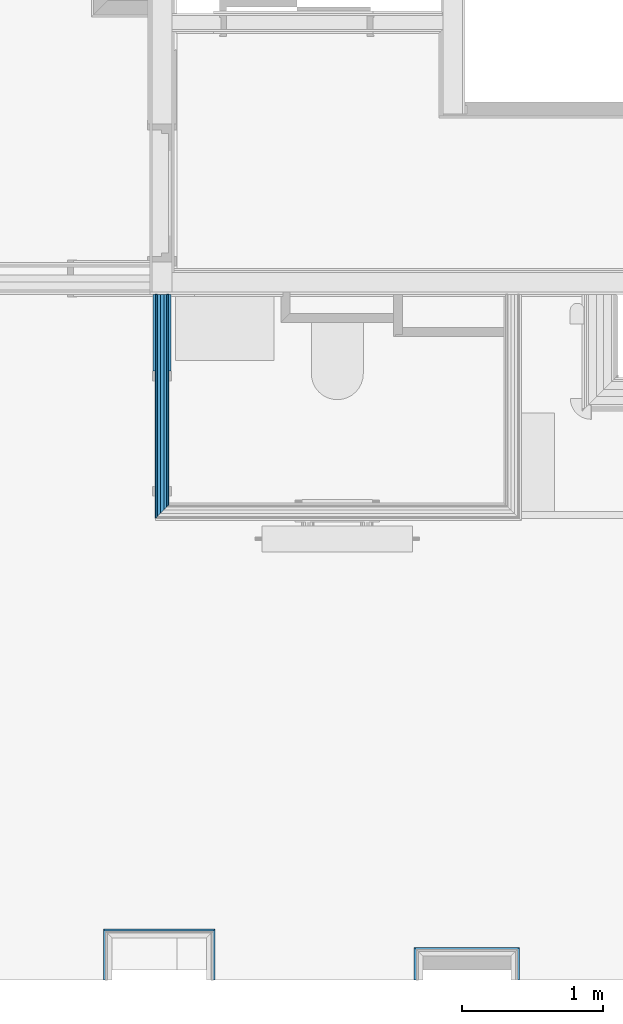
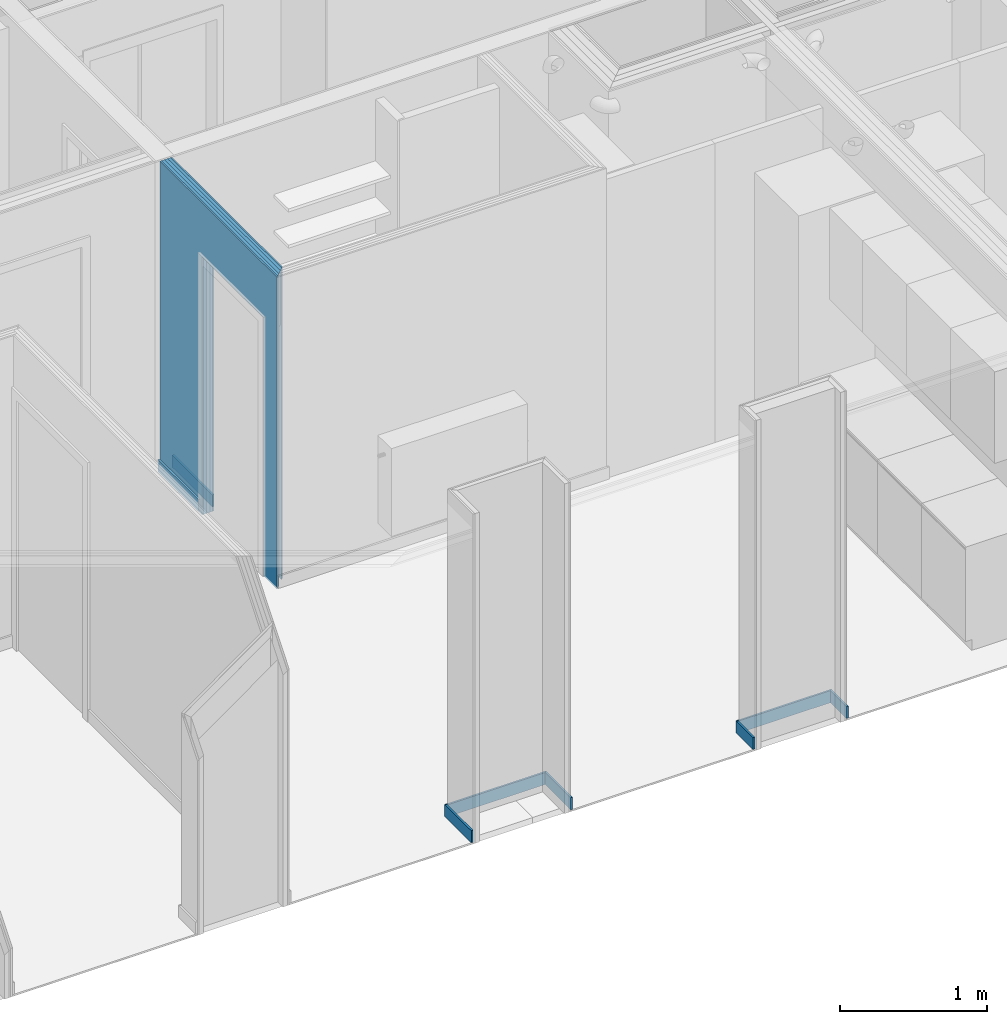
# One storey, part 28 of 85: 13 building element parts, 2 openings, 7 elements without a shape of their own.
"""IFC2X3 building model written with IfcOpenShell, lengths in metres."""

from ifc_helpers import new_model, entity, si_unit, converted_unit, derived_unit, money_unit, direction, frame, frame_2d, origin_with_axes, place, context, subcontext, project, spatial, polyline, rectangle, outline, extrude, material, type_object, element, aggregate, save


model = new_model("IFC2X3")

# Units and contexts
model_context = context("Model", 3, precision=1e-05, world=origin_with_axes(), true_north=direction((0.0, 1.0)))
body_context = subcontext(model_context, "Body", "Model", "MODEL_VIEW", scale=1.0)
ifc_project = project(units=[si_unit("LENGTHUNIT", "METRE"), si_unit("AREAUNIT", "SQUARE_METRE"), si_unit("VOLUMEUNIT", "CUBIC_METRE"), si_unit("ABSORBEDDOSEUNIT", "GRAY"), si_unit("AMOUNTOFSUBSTANCEUNIT", "MOLE"), si_unit("DOSEEQUIVALENTUNIT", "SIEVERT"), si_unit("ELECTRICCAPACITANCEUNIT", "FARAD"), si_unit("ELECTRICCHARGEUNIT", "COULOMB"), si_unit("ELECTRICCONDUCTANCEUNIT", "SIEMENS"), si_unit("ELECTRICCURRENTUNIT", "AMPERE"), si_unit("ELECTRICRESISTANCEUNIT", "OHM"), si_unit("ELECTRICVOLTAGEUNIT", "VOLT"), si_unit("ENERGYUNIT", "JOULE"), si_unit("FORCEUNIT", "NEWTON"), si_unit("FREQUENCYUNIT", "HERTZ"), si_unit("ILLUMINANCEUNIT", "LUX"), si_unit("INDUCTANCEUNIT", "HENRY"), si_unit("LUMINOUSFLUXUNIT", "LUMEN"), si_unit("LUMINOUSINTENSITYUNIT", "CANDELA"), si_unit("MAGNETICFLUXDENSITYUNIT", "TESLA"), si_unit("MAGNETICFLUXUNIT", "WEBER"), si_unit("MASSUNIT", "GRAM"), converted_unit("PLANEANGLEUNIT", "degree", entity("IfcReal", 0.0174532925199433), si_unit("PLANEANGLEUNIT", "RADIAN"), dimensions=[0, 0, 0, 0, 0, 0, 0]), si_unit("POWERUNIT", "WATT"), si_unit("PRESSUREUNIT", "PASCAL"), si_unit("RADIOACTIVITYUNIT", "BECQUEREL"), si_unit("SOLIDANGLEUNIT", "STERADIAN"), si_unit("THERMODYNAMICTEMPERATUREUNIT", "KELVIN"), si_unit("TIMEUNIT", "SECOND"), derived_unit("ACCELERATIONUNIT", [(si_unit("LENGTHUNIT", "METRE"), 1), (si_unit("TIMEUNIT", "SECOND"), -2)]), derived_unit("ANGULARVELOCITYUNIT", [(converted_unit("PLANEANGLEUNIT", "degree", entity("IfcReal", 0.0174532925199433), si_unit("PLANEANGLEUNIT", "RADIAN"), dimensions=[0, 0, 0, 0, 0, 0, 0]), 1), (si_unit("TIMEUNIT", "SECOND"), -1)]), derived_unit("CURVATUREUNIT", [(converted_unit("PLANEANGLEUNIT", "degree", entity("IfcReal", 0.0174532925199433), si_unit("PLANEANGLEUNIT", "RADIAN"), dimensions=[0, 0, 0, 0, 0, 0, 0]), 1), (si_unit("LENGTHUNIT", "METRE"), -1)]), derived_unit("DYNAMICVISCOSITYUNIT", [(si_unit("PRESSUREUNIT", "PASCAL"), 1), (si_unit("TIMEUNIT", "SECOND"), 1)]), derived_unit("HEATFLUXDENSITYUNIT", [(si_unit("POWERUNIT", "WATT"), 1), (si_unit("LENGTHUNIT", "METRE"), -2)]), derived_unit("HEATINGVALUEUNIT", [(si_unit("ENERGYUNIT", "JOULE"), 1), (si_unit("MASSUNIT", "GRAM"), -1)]), derived_unit("INTEGERCOUNTRATEUNIT", [(si_unit("TIMEUNIT", "SECOND"), -1)]), derived_unit("IONCONCENTRATIONUNIT", [(si_unit("MASSUNIT", "GRAM"), 1), (si_unit("VOLUMEUNIT", "CUBIC_METRE"), -1)]), derived_unit("ISOTHERMALMOISTURECAPACITYUNIT", [(si_unit("VOLUMEUNIT", "CUBIC_METRE"), 1), (si_unit("MASSUNIT", "GRAM"), -1)]), derived_unit("KINEMATICVISCOSITYUNIT", [(si_unit("AREAUNIT", "SQUARE_METRE"), 1), (si_unit("TIMEUNIT", "SECOND"), -1)]), derived_unit("LINEARFORCEUNIT", [(si_unit("FORCEUNIT", "NEWTON"), 1), (si_unit("LENGTHUNIT", "METRE"), -1)]), derived_unit("LINEARMOMENTUNIT", [(si_unit("FORCEUNIT", "NEWTON"), 1), (si_unit("LENGTHUNIT", "METRE"), -1)]), derived_unit("LINEARSTIFFNESSUNIT", [(si_unit("FORCEUNIT", "NEWTON"), 1), (si_unit("LENGTHUNIT", "METRE"), -1)]), derived_unit("LINEARVELOCITYUNIT", [(si_unit("LENGTHUNIT", "METRE"), 1), (si_unit("TIMEUNIT", "SECOND"), -1)]), derived_unit("LUMINOUSINTENSITYDISTRIBUTIONUNIT", [(si_unit("LUMINOUSINTENSITYUNIT", "CANDELA"), 1), (si_unit("LUMINOUSFLUXUNIT", "LUMEN"), -1)]), derived_unit("MASSDENSITYUNIT", [(si_unit("MASSUNIT", "GRAM"), 1), (si_unit("VOLUMEUNIT", "CUBIC_METRE"), -1)]), derived_unit("MASSFLOWRATEUNIT", [(si_unit("MASSUNIT", "GRAM"), 1), (si_unit("TIMEUNIT", "SECOND"), -1)]), derived_unit("MASSPERLENGTHUNIT", [(si_unit("MASSUNIT", "GRAM"), 1), (si_unit("LENGTHUNIT", "METRE"), -1)]), derived_unit("MODULUSOFELASTICITYUNIT", [(si_unit("FORCEUNIT", "NEWTON"), 1), (si_unit("AREAUNIT", "SQUARE_METRE"), -1)]), derived_unit("MODULUSOFLINEARSUBGRADEREACTIONUNIT", [(si_unit("FORCEUNIT", "NEWTON"), 1), (si_unit("LENGTHUNIT", "METRE"), -2)]), derived_unit("MODULUSOFROTATIONALSUBGRADEREACTIONUNIT", [(si_unit("FORCEUNIT", "NEWTON"), 1), (si_unit("LENGTHUNIT", "METRE"), 1)]), derived_unit("MODULUSOFSUBGRADEREACTIONUNIT", [(si_unit("FORCEUNIT", "NEWTON"), 1), (si_unit("VOLUMEUNIT", "CUBIC_METRE"), -1)]), derived_unit("MOISTUREDIFFUSIVITYUNIT", [(si_unit("VOLUMEUNIT", "CUBIC_METRE"), 1), (si_unit("TIMEUNIT", "SECOND"), -1)]), derived_unit("MOLECULARWEIGHTUNIT", [(si_unit("MASSUNIT", "GRAM"), 1), (si_unit("AMOUNTOFSUBSTANCEUNIT", "MOLE"), -1)]), derived_unit("PLANARFORCEUNIT", [(si_unit("FORCEUNIT", "NEWTON"), 1), (si_unit("LENGTHUNIT", "METRE"), -2)]), derived_unit("ROTATIONALFREQUENCYUNIT", [(si_unit("TIMEUNIT", "SECOND"), -1)]), derived_unit("ROTATIONALMASSUNIT", [(si_unit("MASSUNIT", "GRAM"), 1), (si_unit("LENGTHUNIT", "METRE"), 2)]), derived_unit("ROTATIONALSTIFFNESSUNIT", [(si_unit("FORCEUNIT", "NEWTON"), 1), (si_unit("LENGTHUNIT", "METRE"), 1), (converted_unit("PLANEANGLEUNIT", "degree", entity("IfcReal", 0.0174532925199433), si_unit("PLANEANGLEUNIT", "RADIAN"), dimensions=[0, 0, 0, 0, 0, 0, 0]), -1)]), derived_unit("SECTIONAREAINTEGRALUNIT", [(si_unit("LENGTHUNIT", "METRE"), 5)]), derived_unit("SECTIONMODULUSUNIT", [(si_unit("LENGTHUNIT", "METRE"), 3)]), derived_unit("SHEARMODULUSUNIT", [(si_unit("FORCEUNIT", "NEWTON"), 1), (si_unit("AREAUNIT", "SQUARE_METRE"), -1)]), derived_unit("SOUNDPOWERUNIT", [(si_unit("ENERGYUNIT", "JOULE"), 1), (si_unit("TIMEUNIT", "SECOND"), -1)]), derived_unit("SPECIFICHEATCAPACITYUNIT", [(si_unit("FORCEUNIT", "NEWTON"), 1), (si_unit("MASSUNIT", "GRAM"), -1), (si_unit("THERMODYNAMICTEMPERATUREUNIT", "KELVIN"), -1)]), derived_unit("TEMPERATUREGRADIENTUNIT", [(si_unit("THERMODYNAMICTEMPERATUREUNIT", "KELVIN"), 1), (si_unit("LENGTHUNIT", "METRE"), -1)]), derived_unit("THERMALADMITTANCEUNIT", [(si_unit("POWERUNIT", "WATT"), 1), (si_unit("AREAUNIT", "SQUARE_METRE"), -1), (si_unit("THERMODYNAMICTEMPERATUREUNIT", "KELVIN"), -1)]), derived_unit("THERMALCONDUCTANCEUNIT", [(si_unit("POWERUNIT", "WATT"), 1), (si_unit("LENGTHUNIT", "METRE"), -1), (si_unit("THERMODYNAMICTEMPERATUREUNIT", "KELVIN"), -1)]), derived_unit("THERMALEXPANSIONCOEFFICIENTUNIT", [(si_unit("THERMODYNAMICTEMPERATUREUNIT", "KELVIN"), -1)]), derived_unit("THERMALRESISTANCEUNIT", [(si_unit("AREAUNIT", "SQUARE_METRE"), 1), (si_unit("POWERUNIT", "WATT"), -1)]), derived_unit("THERMALTRANSMITTANCEUNIT", [(si_unit("POWERUNIT", "WATT"), 1), (si_unit("AREAUNIT", "SQUARE_METRE"), -1), (si_unit("THERMODYNAMICTEMPERATUREUNIT", "KELVIN"), -1)]), derived_unit("TORQUEUNIT", [(si_unit("FORCEUNIT", "NEWTON"), 1), (si_unit("LENGTHUNIT", "METRE"), 1)]), derived_unit("VAPORPERMEABILITYUNIT", [(si_unit("MASSUNIT", "GRAM"), 1), (si_unit("TIMEUNIT", "SECOND"), -1)]), derived_unit("VOLUMETRICFLOWRATEUNIT", [(si_unit("VOLUMEUNIT", "CUBIC_METRE"), 1), (si_unit("TIMEUNIT", "SECOND"), -1)]), derived_unit("WARPINGCONSTANTUNIT", [(si_unit("LENGTHUNIT", "METRE"), 6)]), derived_unit("WARPINGMOMENTUNIT", [(si_unit("FORCEUNIT", "NEWTON"), 1), (si_unit("LENGTHUNIT", "METRE"), 2)]), money_unit("GBP")], contexts=[model_context])

# Site, building, storey
site_placement = place(None, origin_with_axes())
site = spatial("IfcSite", under=ifc_project, at=site_placement, Name="Site", CompositionType="ELEMENT")
building_placement = place(site_placement, origin_with_axes())
building = spatial("IfcBuilding", under=site, at=building_placement, Name="Building01", CompositionType="ELEMENT")
storey_placement = place(building_placement, frame((0.0, 0.0, 12.13), z_axis=(0.0, 0.0, 1.0), x_axis=(1.0, 0.0, 0.0)))
storey = spatial("IfcBuildingStorey", under=building, at=storey_placement, Name="3F", CompositionType="ELEMENT", Elevation=12.13)

# Wall, building element part
wall_type_1 = type_object("IfcWallType", Name="SHE_A-Walls_Type06d_ExternalWallInsulation_48mm", PredefinedType="NOTDEFINED")
wall_1_placement = place(storey_placement, frame((8.79, 0.1, 0.0), z_axis=(0.0, 0.0, 1.0), x_axis=(0.0, 1.0, 0.0)))
wall_1 = element("IfcWall", 1, at=wall_1_placement, inside=storey, type_object=wall_type_1, Name="6D", ObjectType="SHE_A-Walls_Type06d_ExternalWallInsulation_48mm")
ifc_material_1 = material(Name="A_BSUK_Walls_Timber")
building_element_part_1_placement = place(wall_1_placement, origin_with_axes())
building_element_part_1 = element("IfcBuildingElementPart", 2, at=building_element_part_1_placement, material=ifc_material_1, Name="3", context=body_context, shape_type="SweptSolid", body=[
    extrude(outline(polyline([(0.363, 0.063), (0.0, 0.063), (0.0, 0.048), (0.348, 0.048), (0.363, 0.063)])), frame((0.0, 0.0, 0.015), z_axis=(0.0, 0.0, 1.0), x_axis=(1.0, 0.0, 0.0)), (0.0, 0.0, 1.0), 0.1),
])
aggregate(wall_1, [building_element_part_1])

wall_2_placement = place(storey_placement, frame((8.79, 0.4, 0.0), z_axis=(0.0, 0.0, 1.0), x_axis=(1.0, 0.0, 0.0)))
wall_2 = element("IfcWall", 3, at=wall_2_placement, inside=storey, type_object=wall_type_1, Name="6D", ObjectType="SHE_A-Walls_Type06d_ExternalWallInsulation_48mm")
building_element_part_2_placement = place(wall_2_placement, origin_with_axes())
building_element_part_2 = element("IfcBuildingElementPart", 4, at=building_element_part_2_placement, material=ifc_material_1, Name="3", context=body_context, shape_type="SweptSolid", body=[
    extrude(outline(polyline([(0.733, 0.063), (-0.063, 0.063), (-0.048, 0.048), (0.718, 0.048), (0.733, 0.063)])), frame((0.0, 0.0, 0.015), z_axis=(0.0, 0.0, 1.0), x_axis=(1.0, 0.0, 0.0)), (0.0, 0.0, 1.0), 0.1),
])
aggregate(wall_2, [building_element_part_2])

wall_3_placement = place(storey_placement, frame((9.46, 0.4, 0.0), z_axis=(0.0, 0.0, 1.0), x_axis=(0.0, -1.0, 0.0)))
wall_3 = element("IfcWall", 5, at=wall_3_placement, inside=storey, type_object=wall_type_1, Name="6D", ObjectType="SHE_A-Walls_Type06d_ExternalWallInsulation_48mm")
building_element_part_3_placement = place(wall_3_placement, origin_with_axes())
building_element_part_3 = element("IfcBuildingElementPart", 6, at=building_element_part_3_placement, material=ifc_material_1, Name="3", context=body_context, shape_type="SweptSolid", body=[
    extrude(outline(polyline([(-0.063, 0.063), (-0.048, 0.048), (0.3, 0.048), (0.3, 0.063), (-0.063, 0.063)])), frame((0.0, 0.0, 0.015), z_axis=(0.0, 0.0, 1.0), x_axis=(1.0, 0.0, 0.0)), (0.0, 0.0, 1.0), 0.1),
])
aggregate(wall_3, [building_element_part_3])

wall_4_placement = place(storey_placement, frame((11.003, 0.1, 0.0), z_axis=(0.0, 0.0, 1.0), x_axis=(0.0, 1.0, 0.0)))
wall_4 = element("IfcWall", 7, at=wall_4_placement, inside=storey, type_object=wall_type_1, Name="6D", ObjectType="SHE_A-Walls_Type06d_ExternalWallInsulation_48mm")
building_element_part_4_placement = place(wall_4_placement, origin_with_axes())
building_element_part_4 = element("IfcBuildingElementPart", 8, at=building_element_part_4_placement, material=ifc_material_1, Name="3", context=body_context, shape_type="SweptSolid", body=[
    extrude(outline(polyline([(0.233, 0.063), (0.0, 0.063), (0.0, 0.048), (0.218, 0.048), (0.233, 0.063)])), frame((0.0, 0.0, 0.015), z_axis=(0.0, 0.0, 1.0), x_axis=(1.0, 0.0, 0.0)), (0.0, 0.0, 1.0), 0.1),
])
aggregate(wall_4, [building_element_part_4])

wall_5_placement = place(storey_placement, frame((11.003, 0.27, 0.0), z_axis=(0.0, 0.0, 1.0), x_axis=(1.0, 0.0, 0.0)))
wall_5 = element("IfcWall", 9, at=wall_5_placement, inside=storey, type_object=wall_type_1, Name="6D", ObjectType="SHE_A-Walls_Type06d_ExternalWallInsulation_48mm")
building_element_part_5_placement = place(wall_5_placement, origin_with_axes())
building_element_part_5 = element("IfcBuildingElementPart", 10, at=building_element_part_5_placement, material=ifc_material_1, Name="3", context=body_context, shape_type="SweptSolid", body=[
    extrude(outline(polyline([(0.687, 0.063), (-0.063, 0.063), (-0.048, 0.048), (0.672, 0.048), (0.687, 0.063)])), frame((0.0, 0.0, 0.015), z_axis=(0.0, 0.0, 1.0), x_axis=(1.0, 0.0, 0.0)), (0.0, 0.0, 1.0), 0.1),
])
aggregate(wall_5, [building_element_part_5])

wall_6_placement = place(storey_placement, frame((11.627, 0.27, 0.0), z_axis=(0.0, 0.0, 1.0), x_axis=(0.0, -1.0, 0.0)))
wall_6 = element("IfcWall", 11, at=wall_6_placement, inside=storey, type_object=wall_type_1, Name="6D", ObjectType="SHE_A-Walls_Type06d_ExternalWallInsulation_48mm")
building_element_part_6_placement = place(wall_6_placement, origin_with_axes())
building_element_part_6 = element("IfcBuildingElementPart", 12, at=building_element_part_6_placement, material=ifc_material_1, Name="3", context=body_context, shape_type="SweptSolid", body=[
    extrude(outline(polyline([(-0.063, 0.063), (-0.048, 0.048), (0.17, 0.048), (0.17, 0.063), (-0.063, 0.063)])), frame((0.0, 0.0, 0.015), z_axis=(0.0, 0.0, 1.0), x_axis=(1.0, 0.0, 0.0)), (0.0, 0.0, 1.0), 0.1),
])
aggregate(wall_6, [building_element_part_6])

# Wall, openings, building element parts
wall_type_2 = type_object("IfcWallType", Name="SHE_A-Walls_Type05a_Partition_95mm_tall", PredefinedType="NOTDEFINED")
wall_7_placement = place(storey_placement, frame((9.132536, 4.98, 0.0), z_axis=(0.0, 0.0, 1.0), x_axis=(0.0, -1.0, 0.0)))
wall_7 = element("IfcWall", 13, at=wall_7_placement, inside=storey, type_object=wall_type_2, Name="5A", ObjectType="SHE_A-Walls_Type05a_Partition_95mm_tall")
opening_1_placement = place(wall_7_placement, frame((0.574219, -0.035, -0.015), z_axis=(0.0, 0.0, 1.0), x_axis=(1.0, 0.0, 0.0)))
element("IfcOpeningElement", 14, at=opening_1_placement, cuts=wall_7, Name="Opening", ObjectType="Recess", context=body_context, shape_type="SweptSolid", body=[
    extrude(rectangle(XDim=0.834, YDim=2.142, at=frame_2d((-0.417, 1.071), x_axis=(1.0, 0.0))), frame((0.0, 0.0, 0.0), z_axis=(0.0, 1.0, 0.0), x_axis=(-1.0, 0.0, 0.0)), (0.0, 0.0, 1.0), 0.095),
])
opening_2_placement = place(wall_7_placement, frame((0.574219, -0.035, 0.0), z_axis=(0.0, 0.0, 1.0), x_axis=(1.0, 0.0, 0.0)))
element("IfcOpeningElement", 15, at=opening_2_placement, cuts=wall_7, Name="Opening", ObjectType="Recess", context=body_context, shape_type="SweptSolid", body=[
    extrude(rectangle(XDim=0.834, YDim=2.142, at=frame_2d((-0.417, 1.071), x_axis=(-1.0, 0.0))), frame((0.0, 0.0, 0.0), z_axis=(0.0, 1.0, 0.0), x_axis=(-1.0, 0.0, 0.0)), (0.0, 0.0, 1.0), 0.095),
    extrude(rectangle(XDim=1.034, YDim=2.142, at=frame_2d((-0.517, 1.071), x_axis=(-1.0, 0.0))), frame((0.0, 0.035, 0.0), z_axis=(0.0, 1.0, 0.0), x_axis=(-1.0, 0.0, 0.0)), (0.0, 0.0, 1.0), 0.025),
    extrude(rectangle(XDim=1.034, YDim=2.142, at=frame_2d((-0.517, 1.071), x_axis=(-1.0, 0.0))), frame((0.0, 0.06, 0.0), z_axis=(0.0, 1.0, 0.0), x_axis=(-1.0, 0.0, 0.0)), (0.0, 0.0, 1.0), 0.023),
])
placement = place(wall_7_placement, origin_with_axes())
building_element_part_7 = element("IfcBuildingElementPart", 16, at=placement, material=ifc_material_1, Name="1", context=body_context, shape_type="SweptSolid", body=[
    extrude(rectangle(XDim=0.015, YDim=0.547219, at=frame_2d((0.27361, -0.0425), x_axis=(0.0, -1.0))), frame((0.0, 0.0, 0.015), z_axis=(0.0, 0.0, 1.0), x_axis=(1.0, 0.0, 0.0)), (0.0, 0.0, 1.0), 0.1),
])
ifc_material_2 = material(Name="A_BSUK_WallInternal_Finishes_Plasterboard")
building_element_part_8 = element("IfcBuildingElementPart", 17, at=placement, material=ifc_material_2, Name="2", context=body_context, shape_type="SweptSolid", body=[
    extrude(outline(polyline([(1.583, -0.023), (0.0, -0.023), (0.0, -0.035), (1.595, -0.035), (1.583, -0.023)])), origin_with_axes(), (0.0, 0.0, 1.0), 2.59),
])
ifc_material_3 = material(Name="Air Cavity")
building_element_part_9 = element("IfcBuildingElementPart", 18, at=placement, material=ifc_material_3, Name="3", context=body_context, shape_type="SweptSolid", body=[
    extrude(outline(polyline([(1.56, 0.0), (0.0, 0.0), (0.0, -0.023), (1.583, -0.023), (1.56, 0.0)])), origin_with_axes(), (0.0, 0.0, 1.0), 2.59),
])
ifc_material_4 = material(Name="A_BSUK_Insulation")
building_element_part_10 = element("IfcBuildingElementPart", 19, at=placement, material=ifc_material_4, Name="4", context=body_context, shape_type="SweptSolid", body=[
    extrude(outline(polyline([(1.535, 0.025), (0.0, 0.025), (0.0, 0.0), (1.56, 0.0), (1.535, 0.025)])), origin_with_axes(), (0.0, 0.0, 1.0), 2.59),
])
building_element_part_11 = element("IfcBuildingElementPart", 20, at=placement, material=ifc_material_3, Name="5", context=body_context, shape_type="SweptSolid", body=[
    extrude(outline(polyline([(1.512, 0.048), (0.0, 0.048), (0.0, 0.025), (1.535, 0.025), (1.512, 0.048)])), origin_with_axes(), (0.0, 0.0, 1.0), 2.59),
])
building_element_part_12 = element("IfcBuildingElementPart", 21, at=placement, material=ifc_material_2, Name="6", context=body_context, shape_type="SweptSolid", body=[
    extrude(outline(polyline([(1.5, 0.06), (0.0, 0.06), (0.0, 0.048), (1.512, 0.048), (1.5, 0.06)])), origin_with_axes(), (0.0, 0.0, 1.0), 2.59),
])
building_element_part_13 = element("IfcBuildingElementPart", 22, at=placement, material=ifc_material_1, Name="7", context=body_context, shape_type="SweptSolid", body=[
    extrude(rectangle(XDim=0.015, YDim=0.547219, at=frame_2d((0.27361, 0.0675), x_axis=(0.0, -1.0))), frame((0.0, 0.0, 0.015), z_axis=(0.0, 0.0, 1.0), x_axis=(1.0, 0.0, 0.0)), (0.0, 0.0, 1.0), 0.1),
])
aggregate(wall_7, [building_element_part_7, building_element_part_8, building_element_part_9, building_element_part_10, building_element_part_11, building_element_part_12, building_element_part_13])

save(model, "model.ifc")
